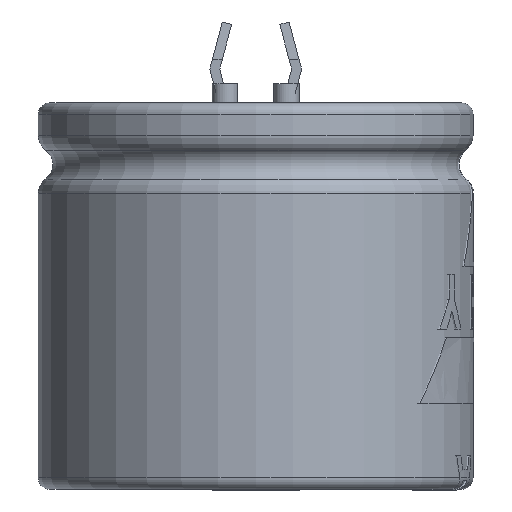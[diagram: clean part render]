
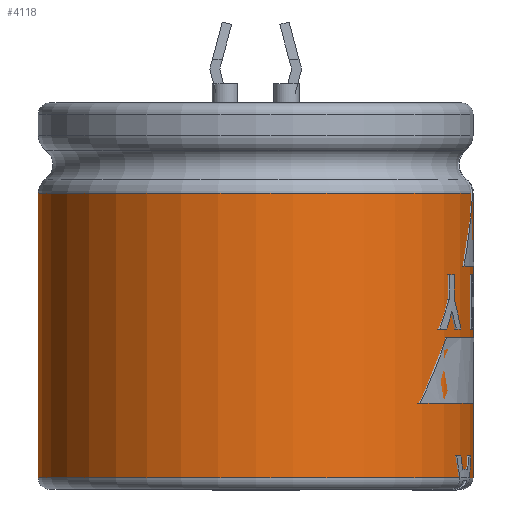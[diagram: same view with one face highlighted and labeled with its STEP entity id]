
A CAD part, left-side view. The second image highlights one B-rep face of the part: STEP entity #4118.
In plain terms, the highlighted cylindrical face has radius 18 mm (diameter 36 mm), a full revolution.
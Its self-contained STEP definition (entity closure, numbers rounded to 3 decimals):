
#4050 = TOROIDAL_SURFACE('',#4051,16.5,1.5);
#4051 = AXIS2_PLACEMENT_3D('',#4052,#4053,#4054);
#4052 = CARTESIAN_POINT('',(0.,0.,-6.55));
#4053 = DIRECTION('',(0.,0.,1.));
#4054 = DIRECTION('',(1.,0.,0.));
#4066 = EDGE_CURVE('',#4067,#4067,#4069,.T.);
#4067 = VERTEX_POINT('',#4068);
#4068 = CARTESIAN_POINT('',(18.,0.,
    -6.55));
#4069 = SURFACE_CURVE('',#4070,(#4075,#4082),.PCURVE_S1.);
#4070 = CIRCLE('',#4071,18.);
#4071 = AXIS2_PLACEMENT_3D('',#4072,#4073,#4074);
#4072 = CARTESIAN_POINT('',(0.,0.,-6.55));
#4073 = DIRECTION('',(0.,0.,1.));
#4074 = DIRECTION('',(1.,0.,0.));
#4075 = PCURVE('',#4050,#4076);
#4076 = DEFINITIONAL_REPRESENTATION('',(#4077),#4081);
#4077 = LINE('',#4078,#4079);
#4078 = CARTESIAN_POINT('',(0.,6.283));
#4079 = VECTOR('',#4080,1.);
#4080 = DIRECTION('',(1.,0.));
#4081 = ( GEOMETRIC_REPRESENTATION_CONTEXT(2) 
PARAMETRIC_REPRESENTATION_CONTEXT() REPRESENTATION_CONTEXT('2D SPACE',''
  ) );
#4082 = PCURVE('',#4083,#4088);
#4083 = CYLINDRICAL_SURFACE('',#4084,18.);
#4084 = AXIS2_PLACEMENT_3D('',#4085,#4086,#4087);
#4085 = CARTESIAN_POINT('',(0.,0.,-30.1));
#4086 = DIRECTION('',(0.,0.,1.));
#4087 = DIRECTION('',(1.,0.,0.));
#4088 = DEFINITIONAL_REPRESENTATION('',(#4089),#4093);
#4089 = LINE('',#4090,#4091);
#4090 = CARTESIAN_POINT('',(0.,23.55));
#4091 = VECTOR('',#4092,1.);
#4092 = DIRECTION('',(1.,0.));
#4093 = ( GEOMETRIC_REPRESENTATION_CONTEXT(2) 
PARAMETRIC_REPRESENTATION_CONTEXT() REPRESENTATION_CONTEXT('2D SPACE',''
  ) );
#4118 = ADVANCED_FACE('',(#4119),#4083,.T.);
#4119 = FACE_BOUND('',#4120,.T.);
#4120 = EDGE_LOOP('',(#4121,#4150,#4171,#4172));
#4121 = ORIENTED_EDGE('',*,*,#4122,.T.);
#4122 = EDGE_CURVE('',#4123,#4123,#4125,.T.);
#4123 = VERTEX_POINT('',#4124);
#4124 = CARTESIAN_POINT('',(18.,0.,-30.1));
#4125 = SURFACE_CURVE('',#4126,(#4131,#4138),.PCURVE_S1.);
#4126 = CIRCLE('',#4127,18.);
#4127 = AXIS2_PLACEMENT_3D('',#4128,#4129,#4130);
#4128 = CARTESIAN_POINT('',(0.,0.,-30.1));
#4129 = DIRECTION('',(0.,0.,1.));
#4130 = DIRECTION('',(1.,0.,0.));
#4131 = PCURVE('',#4083,#4132);
#4132 = DEFINITIONAL_REPRESENTATION('',(#4133),#4137);
#4133 = LINE('',#4134,#4135);
#4134 = CARTESIAN_POINT('',(0.,0.));
#4135 = VECTOR('',#4136,1.);
#4136 = DIRECTION('',(1.,0.));
#4137 = ( GEOMETRIC_REPRESENTATION_CONTEXT(2) 
PARAMETRIC_REPRESENTATION_CONTEXT() REPRESENTATION_CONTEXT('2D SPACE',''
  ) );
#4138 = PCURVE('',#4139,#4144);
#4139 = TOROIDAL_SURFACE('',#4140,17.05,0.95);
#4140 = AXIS2_PLACEMENT_3D('',#4141,#4142,#4143);
#4141 = CARTESIAN_POINT('',(0.,0.,-30.1));
#4142 = DIRECTION('',(0.,0.,1.));
#4143 = DIRECTION('',(1.,0.,0.));
#4144 = DEFINITIONAL_REPRESENTATION('',(#4145),#4149);
#4145 = LINE('',#4146,#4147);
#4146 = CARTESIAN_POINT('',(0.,6.283));
#4147 = VECTOR('',#4148,1.);
#4148 = DIRECTION('',(1.,0.));
#4149 = ( GEOMETRIC_REPRESENTATION_CONTEXT(2) 
PARAMETRIC_REPRESENTATION_CONTEXT() REPRESENTATION_CONTEXT('2D SPACE',''
  ) );
#4150 = ORIENTED_EDGE('',*,*,#4151,.T.);
#4151 = EDGE_CURVE('',#4123,#4067,#4152,.T.);
#4152 = SEAM_CURVE('',#4153,(#4157,#4164),.PCURVE_S1.);
#4153 = LINE('',#4154,#4155);
#4154 = CARTESIAN_POINT('',(18.,0.,-30.1));
#4155 = VECTOR('',#4156,1.);
#4156 = DIRECTION('',(0.,0.,1.));
#4157 = PCURVE('',#4083,#4158);
#4158 = DEFINITIONAL_REPRESENTATION('',(#4159),#4163);
#4159 = LINE('',#4160,#4161);
#4160 = CARTESIAN_POINT('',(0.,0.));
#4161 = VECTOR('',#4162,1.);
#4162 = DIRECTION('',(0.,1.));
#4163 = ( GEOMETRIC_REPRESENTATION_CONTEXT(2) 
PARAMETRIC_REPRESENTATION_CONTEXT() REPRESENTATION_CONTEXT('2D SPACE',''
  ) );
#4164 = PCURVE('',#4083,#4165);
#4165 = DEFINITIONAL_REPRESENTATION('',(#4166),#4170);
#4166 = LINE('',#4167,#4168);
#4167 = CARTESIAN_POINT('',(6.283,0.));
#4168 = VECTOR('',#4169,1.);
#4169 = DIRECTION('',(0.,1.));
#4170 = ( GEOMETRIC_REPRESENTATION_CONTEXT(2) 
PARAMETRIC_REPRESENTATION_CONTEXT() REPRESENTATION_CONTEXT('2D SPACE',''
  ) );
#4171 = ORIENTED_EDGE('',*,*,#4066,.F.);
#4172 = ORIENTED_EDGE('',*,*,#4151,.F.);
